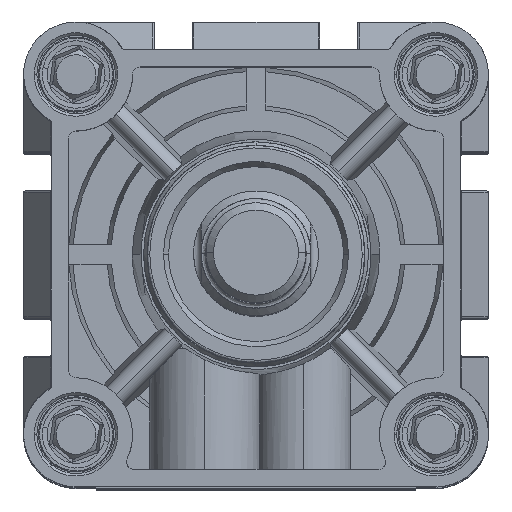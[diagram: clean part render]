
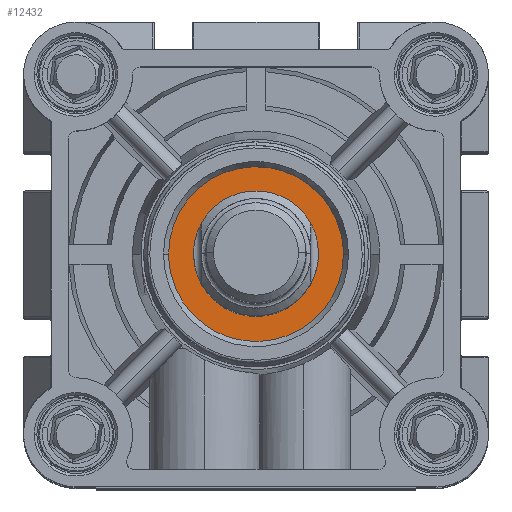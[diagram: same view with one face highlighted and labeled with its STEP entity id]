
A CAD part, top view. The second image highlights one B-rep face of the part: STEP entity #12432.
In plain terms, the highlighted planar face has unit normal (0, 0, 1).
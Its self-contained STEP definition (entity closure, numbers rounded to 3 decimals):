
#74 = CARTESIAN_POINT ( 'NONE',  ( 58.376, 38.711, 69. ) ) ;
#177 = CARTESIAN_POINT ( 'NONE',  ( 57.929, 36.466, 69. ) ) ;
#678 = VERTEX_POINT ( 'NONE', #27290 ) ;
#685 = CARTESIAN_POINT ( 'NONE',  ( 57.595, 35.365, 69. ) ) ;
#979 = CARTESIAN_POINT ( 'NONE',  ( 56.719, 33.25, 69. ) ) ;
#1080 = CARTESIAN_POINT ( 'NONE',  ( 56.177, 32.236, 69. ) ) ;
#1381 = CARTESIAN_POINT ( 'NONE',  ( 54.905, 30.332, 69. ) ) ;
#2250 = CARTESIAN_POINT ( 'NONE',  ( 54.175, 29.443, 69. ) ) ;
#2384 = CARTESIAN_POINT ( 'NONE',  ( 52.557, 27.825, 69. ) ) ;
#2415 = FACE_BOUND ( 'NONE', #28654, .T. ) ;
#2703 = CARTESIAN_POINT ( 'NONE',  ( 41., 41., 69. ) ) ;
#2733 = CARTESIAN_POINT ( 'NONE',  ( 28.5, 41., 69. ) ) ;
#2772 = CARTESIAN_POINT ( 'NONE',  ( 51.668, 27.095, 69. ) ) ;
#2840 = CARTESIAN_POINT ( 'NONE',  ( 49.764, 25.823, 69. ) ) ;
#2880 = CARTESIAN_POINT ( 'NONE',  ( 48.75, 25.281, 69. ) ) ;
#2941 = CARTESIAN_POINT ( 'NONE',  ( 46.635, 24.405, 69. ) ) ;
#3505 = CARTESIAN_POINT ( 'NONE',  ( 45.534, 24.071, 69. ) ) ;
#3608 = CARTESIAN_POINT ( 'NONE',  ( 43.289, 23.624, 69. ) ) ;
#3646 = CARTESIAN_POINT ( 'NONE',  ( 42.145, 23.512, 69. ) ) ;
#4459 = CARTESIAN_POINT ( 'NONE',  ( 39.855, 23.512, 69. ) ) ;
#4500 = AXIS2_PLACEMENT_3D ( 'NONE', #14783, #24177, #10355 ) ;
#4647 = CARTESIAN_POINT ( 'NONE',  ( 38.711, 23.624, 69. ) ) ;
#4739 = CARTESIAN_POINT ( 'NONE',  ( 35.365, 24.405, 69. ) ) ;
#4801 = CARTESIAN_POINT ( 'NONE',  ( 36.466, 24.071, 69. ) ) ;
#4835 = CARTESIAN_POINT ( 'NONE',  ( 33.25, 25.281, 69. ) ) ;
#4973 = DIRECTION ( 'NONE',  ( 1., 0., 0. ) ) ;
#5043 = CARTESIAN_POINT ( 'NONE',  ( 32.236, 25.823, 69. ) ) ;
#5150 = CARTESIAN_POINT ( 'NONE',  ( 30.332, 27.095, 69. ) ) ;
#5298 = CARTESIAN_POINT ( 'NONE',  ( 29.443, 27.825, 69. ) ) ;
#5398 = CARTESIAN_POINT ( 'NONE',  ( 27.825, 29.443, 69. ) ) ;
#5436 = CARTESIAN_POINT ( 'NONE',  ( 27.095, 30.332, 69. ) ) ;
#5460 = EDGE_CURVE ( 'NONE', #10583, #24282, #8536, .T. ) ;
#5620 = VERTEX_POINT ( 'NONE', #2733 ) ;
#6121 = EDGE_CURVE ( 'NONE', #24282, #10583, #21042, .T. ) ;
#6279 = CARTESIAN_POINT ( 'NONE',  ( 23.512, 42.145, 69. ) ) ;
#6348 = CARTESIAN_POINT ( 'NONE',  ( 23.624, 43.289, 69. ) ) ;
#6568 = CARTESIAN_POINT ( 'NONE',  ( 25.823, 32.236, 69. ) ) ;
#6773 = CARTESIAN_POINT ( 'NONE',  ( 25.281, 33.25, 69. ) ) ;
#7225 = CARTESIAN_POINT ( 'NONE',  ( 24.405, 35.365, 69. ) ) ;
#7577 = CARTESIAN_POINT ( 'NONE',  ( 24.071, 36.466, 69. ) ) ;
#7783 = CARTESIAN_POINT ( 'NONE',  ( 23.624, 38.711, 69. ) ) ;
#7879 = CARTESIAN_POINT ( 'NONE',  ( 23.512, 39.855, 69. ) ) ;
#8042 = PLANE ( 'NONE',  #4500 ) ;
#8083 = CARTESIAN_POINT ( 'NONE',  ( 23.512, 41., 69. ) ) ;
#8191 = EDGE_CURVE ( 'NONE', #5620, #678, #23674, .T. ) ;
#8536 = B_SPLINE_CURVE_WITH_KNOTS ( 'NONE', 3,
 ( #8878, #6279, #6348, #9097, #9198, #9294, #10076, #10081, #10113, #10151, #10277, #10512, #10612, #10743, #11189, #11299, #11395, #11896, #12263, #12496, #12728, #12734, #12769, #12845, #13032, #13395, #13531, #13709, #13796, #14211, #14381, #14481, #14606, #14613 ),
 .UNSPECIFIED., .F., .F.,
 ( 4, 2, 2, 2, 2, 2, 2, 2, 2, 2, 2, 2, 2, 2, 2, 2, 4 ),
 ( 0., 0.062, 0.125, 0.187, 0.25, 0.312, 0.375, 0.437, 0.5, 0.562, 0.625, 0.687, 0.75, 0.812, 0.875, 0.938, 1. ),
 .UNSPECIFIED. ) ;
#8878 = CARTESIAN_POINT ( 'NONE',  ( 23.512, 41., 69. ) ) ;
#9097 = CARTESIAN_POINT ( 'NONE',  ( 24.071, 45.534, 69. ) ) ;
#9198 = CARTESIAN_POINT ( 'NONE',  ( 24.405, 46.635, 69. ) ) ;
#9294 = CARTESIAN_POINT ( 'NONE',  ( 25.281, 48.75, 69. ) ) ;
#9662 = CARTESIAN_POINT ( 'NONE',  ( 41., 41., 69. ) ) ;
#10076 = CARTESIAN_POINT ( 'NONE',  ( 25.823, 49.764, 69. ) ) ;
#10081 = CARTESIAN_POINT ( 'NONE',  ( 27.095, 51.668, 69. ) ) ;
#10113 = CARTESIAN_POINT ( 'NONE',  ( 27.825, 52.557, 69. ) ) ;
#10151 = CARTESIAN_POINT ( 'NONE',  ( 29.443, 54.175, 69. ) ) ;
#10277 = CARTESIAN_POINT ( 'NONE',  ( 30.332, 54.905, 69. ) ) ;
#10355 = DIRECTION ( 'NONE',  ( 1., 0., 0. ) ) ;
#10512 = CARTESIAN_POINT ( 'NONE',  ( 32.236, 56.177, 69. ) ) ;
#10583 = VERTEX_POINT ( 'NONE', #17166 ) ;
#10612 = CARTESIAN_POINT ( 'NONE',  ( 33.25, 56.719, 69. ) ) ;
#10743 = CARTESIAN_POINT ( 'NONE',  ( 35.365, 57.595, 69. ) ) ;
#11189 = CARTESIAN_POINT ( 'NONE',  ( 36.466, 57.929, 69. ) ) ;
#11299 = CARTESIAN_POINT ( 'NONE',  ( 38.711, 58.376, 69. ) ) ;
#11395 = CARTESIAN_POINT ( 'NONE',  ( 39.855, 58.488, 69. ) ) ;
#11542 = ORIENTED_EDGE ( 'NONE', *, *, #5460, .F. ) ;
#11896 = CARTESIAN_POINT ( 'NONE',  ( 42.145, 58.488, 69. ) ) ;
#11967 = DIRECTION ( 'NONE',  ( 1., 0., 0. ) ) ;
#12263 = CARTESIAN_POINT ( 'NONE',  ( 43.289, 58.376, 69. ) ) ;
#12432 = ADVANCED_FACE ( 'NONE', ( #25485, #2415 ), #8042, .T. ) ;
#12496 = CARTESIAN_POINT ( 'NONE',  ( 45.534, 57.929, 69. ) ) ;
#12728 = CARTESIAN_POINT ( 'NONE',  ( 46.635, 57.595, 69. ) ) ;
#12734 = CARTESIAN_POINT ( 'NONE',  ( 48.75, 56.719, 69. ) ) ;
#12769 = CARTESIAN_POINT ( 'NONE',  ( 49.764, 56.177, 69. ) ) ;
#12845 = CARTESIAN_POINT ( 'NONE',  ( 51.668, 54.905, 69. ) ) ;
#13032 = CARTESIAN_POINT ( 'NONE',  ( 52.557, 54.175, 69. ) ) ;
#13395 = CARTESIAN_POINT ( 'NONE',  ( 54.175, 52.557, 69. ) ) ;
#13531 = CARTESIAN_POINT ( 'NONE',  ( 54.905, 51.668, 69. ) ) ;
#13709 = CARTESIAN_POINT ( 'NONE',  ( 56.177, 49.764, 69. ) ) ;
#13796 = CARTESIAN_POINT ( 'NONE',  ( 56.719, 48.75, 69. ) ) ;
#14211 = CARTESIAN_POINT ( 'NONE',  ( 57.595, 46.635, 69. ) ) ;
#14381 = CARTESIAN_POINT ( 'NONE',  ( 57.929, 45.534, 69. ) ) ;
#14481 = CARTESIAN_POINT ( 'NONE',  ( 58.376, 43.289, 69. ) ) ;
#14606 = CARTESIAN_POINT ( 'NONE',  ( 58.488, 42.145, 69. ) ) ;
#14613 = CARTESIAN_POINT ( 'NONE',  ( 58.488, 41., 69. ) ) ;
#14783 = CARTESIAN_POINT ( 'NONE',  ( 41., 41., 69. ) ) ;
#17166 = CARTESIAN_POINT ( 'NONE',  ( 23.512, 41., 69. ) ) ;
#17543 = EDGE_CURVE ( 'NONE', #678, #5620, #22067, .T. ) ;
#18791 = DIRECTION ( 'NONE',  ( 0., 0., 1. ) ) ;
#20260 = CARTESIAN_POINT ( 'NONE',  ( 58.488, 41., 69. ) ) ;
#20697 = ORIENTED_EDGE ( 'NONE', *, *, #6121, .F. ) ;
#21042 = B_SPLINE_CURVE_WITH_KNOTS ( 'NONE', 3,
 ( #20260, #28856, #74, #177, #685, #979, #1080, #1381, #2250, #2384, #2772, #2840, #2880, #2941, #3505, #3608, #3646, #4459, #4647, #4801, #4739, #4835, #5043, #5150, #5298, #5398, #5436, #6568, #6773, #7225, #7577, #7783, #7879, #8083 ),
 .UNSPECIFIED., .F., .F.,
 ( 4, 2, 2, 2, 2, 2, 2, 2, 2, 2, 2, 2, 2, 2, 2, 2, 4 ),
 ( 0., 0.062, 0.125, 0.187, 0.25, 0.312, 0.375, 0.437, 0.5, 0.562, 0.625, 0.687, 0.75, 0.812, 0.875, 0.937, 1. ),
 .UNSPECIFIED. ) ;
#22067 = CIRCLE ( 'NONE', #22338, 12.5 ) ;
#22338 = AXIS2_PLACEMENT_3D ( 'NONE', #2703, #18791, #4973 ) ;
#23331 = ORIENTED_EDGE ( 'NONE', *, *, #8191, .F. ) ;
#23674 = CIRCLE ( 'NONE', #24753, 12.5 ) ;
#24177 = DIRECTION ( 'NONE',  ( 0., 0., 1. ) ) ;
#24282 = VERTEX_POINT ( 'NONE', #27920 ) ;
#24688 = ORIENTED_EDGE ( 'NONE', *, *, #17543, .F. ) ;
#24753 = AXIS2_PLACEMENT_3D ( 'NONE', #9662, #25804, #11967 ) ;
#25485 = FACE_OUTER_BOUND ( 'NONE', #29433, .T. ) ;
#25804 = DIRECTION ( 'NONE',  ( 0., 0., 1. ) ) ;
#27290 = CARTESIAN_POINT ( 'NONE',  ( 53.5, 41., 69. ) ) ;
#27920 = CARTESIAN_POINT ( 'NONE',  ( 58.488, 41., 69. ) ) ;
#28654 = EDGE_LOOP ( 'NONE', ( #24688, #23331 ) ) ;
#28856 = CARTESIAN_POINT ( 'NONE',  ( 58.488, 39.855, 69. ) ) ;
#29433 = EDGE_LOOP ( 'NONE', ( #20697, #11542 ) ) ;
